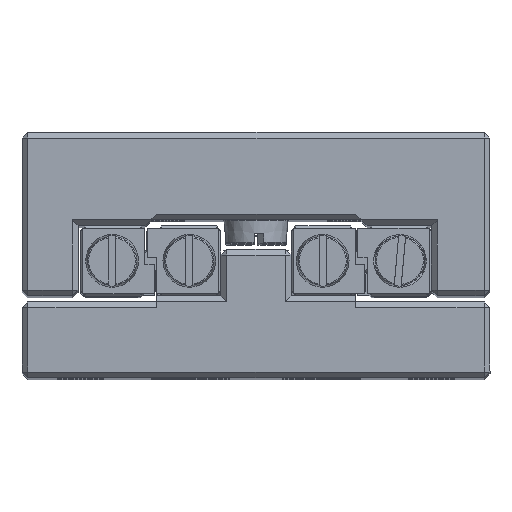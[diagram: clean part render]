
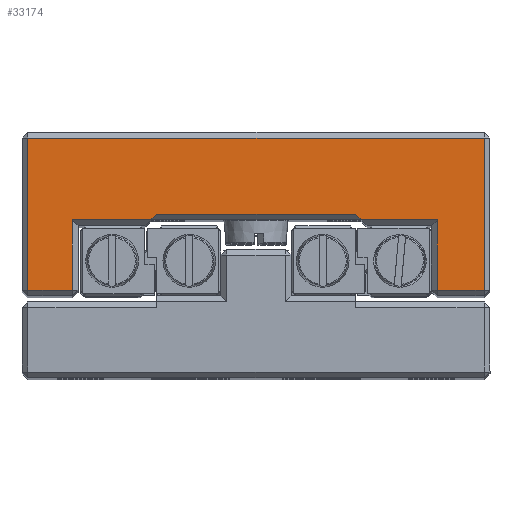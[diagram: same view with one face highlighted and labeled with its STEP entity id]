
A CAD part, top view. The second image highlights one B-rep face of the part: STEP entity #33174.
In plain terms, the highlighted planar face has unit normal (0, 0, 1).
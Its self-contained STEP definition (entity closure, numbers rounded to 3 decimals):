
#2065=PLANE('',#35907);
#3949=FACE_OUTER_BOUND('',#5962,.T.);
#5962=EDGE_LOOP('',(#28222,#28223,#28224,#28225,#28226,#28227,#28228,#28229,
#28230,#28231,#28232,#28233));
#8676=LINE('',#54648,#11580);
#8692=LINE('',#54674,#11596);
#8703=LINE('',#54691,#11607);
#8706=LINE('',#54696,#11610);
#8710=LINE('',#54705,#11614);
#8713=LINE('',#54714,#11617);
#8714=LINE('',#54720,#11618);
#8718=LINE('',#54730,#11622);
#8728=LINE('',#54754,#11632);
#8730=LINE('',#54758,#11634);
#8731=LINE('',#54759,#11635);
#8732=LINE('',#54760,#11636);
#11580=VECTOR('',#43136,10.);
#11596=VECTOR('',#43162,10.);
#11607=VECTOR('',#43181,10.);
#11610=VECTOR('',#43186,10.);
#11614=VECTOR('',#43198,10.);
#11617=VECTOR('',#43211,10.);
#11618=VECTOR('',#43220,10.);
#11622=VECTOR('',#43230,10.);
#11632=VECTOR('',#43250,10.);
#11634=VECTOR('',#43254,10.);
#11635=VECTOR('',#43255,10.);
#11636=VECTOR('',#43256,10.);
#15674=VERTEX_POINT('',#54645);
#15675=VERTEX_POINT('',#54647);
#15680=VERTEX_POINT('',#54672);
#15682=VERTEX_POINT('',#54689);
#15683=VERTEX_POINT('',#54694);
#15684=VERTEX_POINT('',#54703);
#15685=VERTEX_POINT('',#54712);
#15686=VERTEX_POINT('',#54719);
#15688=VERTEX_POINT('',#54727);
#15689=VERTEX_POINT('',#54729);
#15698=VERTEX_POINT('',#54752);
#15699=VERTEX_POINT('',#54757);
#19970=EDGE_CURVE('',#15674,#15675,#8676,.T.);
#19986=EDGE_CURVE('',#15680,#15674,#8692,.T.);
#19997=EDGE_CURVE('',#15682,#15680,#8703,.T.);
#20000=EDGE_CURVE('',#15683,#15682,#8706,.T.);
#20004=EDGE_CURVE('',#15684,#15683,#8710,.T.);
#20007=EDGE_CURVE('',#15685,#15684,#8713,.T.);
#20008=EDGE_CURVE('',#15686,#15685,#8714,.T.);
#20012=EDGE_CURVE('',#15688,#15689,#8718,.T.);
#20024=EDGE_CURVE('',#15698,#15686,#8728,.T.);
#20026=EDGE_CURVE('',#15675,#15699,#8730,.T.);
#20027=EDGE_CURVE('',#15689,#15698,#8731,.T.);
#20028=EDGE_CURVE('',#15699,#15688,#8732,.T.);
#28222=ORIENTED_EDGE('',*,*,#20026,.F.);
#28223=ORIENTED_EDGE('',*,*,#19970,.F.);
#28224=ORIENTED_EDGE('',*,*,#19986,.F.);
#28225=ORIENTED_EDGE('',*,*,#19997,.F.);
#28226=ORIENTED_EDGE('',*,*,#20000,.F.);
#28227=ORIENTED_EDGE('',*,*,#20004,.F.);
#28228=ORIENTED_EDGE('',*,*,#20007,.F.);
#28229=ORIENTED_EDGE('',*,*,#20008,.F.);
#28230=ORIENTED_EDGE('',*,*,#20024,.F.);
#28231=ORIENTED_EDGE('',*,*,#20027,.F.);
#28232=ORIENTED_EDGE('',*,*,#20012,.F.);
#28233=ORIENTED_EDGE('',*,*,#20028,.F.);
#33174=ADVANCED_FACE('',(#3949),#2065,.F.);
#35907=AXIS2_PLACEMENT_3D('',#54756,#43252,#43253);
#43136=DIRECTION('',(0.,1.,0.));
#43162=DIRECTION('',(-1.,0.,0.));
#43181=DIRECTION('',(0.,-1.,0.));
#43186=DIRECTION('',(1.,0.,0.));
#43198=DIRECTION('',(0.,1.,0.));
#43211=DIRECTION('',(-1.,0.,0.));
#43220=DIRECTION('',(0.,-1.,0.));
#43230=DIRECTION('',(-1.,0.,0.));
#43250=DIRECTION('',(-1.,0.,0.));
#43252=DIRECTION('center_axis',(0.,0.,
-1.));
#43253=DIRECTION('ref_axis',(-1.,0.,0.));
#43254=DIRECTION('',(-1.,0.,0.));
#43255=DIRECTION('',(-0.707,-0.707,0.));
#43256=DIRECTION('',(-0.707,0.707,0.));
#54645=CARTESIAN_POINT('',(-18.197,7.5,35.));
#54647=CARTESIAN_POINT('',(-18.197,13.5,35.));
#54648=CARTESIAN_POINT('',(-18.197,10.5,35.));
#54672=CARTESIAN_POINT('',(-14.197,7.5,35.));
#54674=CARTESIAN_POINT('',(-23.697,7.5,35.));
#54689=CARTESIAN_POINT('',(-14.197,20.5,35.));
#54691=CARTESIAN_POINT('',(-14.197,17.5,35.));
#54694=CARTESIAN_POINT('',(-53.197,20.5,35.));
#54696=CARTESIAN_POINT('',(-43.697,20.5,35.));
#54703=CARTESIAN_POINT('',(-53.197,7.5,35.));
#54705=CARTESIAN_POINT('',(-53.197,10.5,35.));
#54712=CARTESIAN_POINT('',(-49.397,7.5,35.));
#54714=CARTESIAN_POINT('',(-41.297,7.5,35.));
#54719=CARTESIAN_POINT('',(-49.397,13.5,35.));
#54720=CARTESIAN_POINT('',(-49.397,13.5,35.));
#54727=CARTESIAN_POINT('',(-25.197,14.,35.));
#54729=CARTESIAN_POINT('',(-42.197,14.,35.));
#54730=CARTESIAN_POINT('',(-29.197,14.,35.));
#54752=CARTESIAN_POINT('',(-42.697,13.5,35.));
#54754=CARTESIAN_POINT('',(-38.447,13.5,35.));
#54756=CARTESIAN_POINT('Origin',(-33.697,14.,35.));
#54757=CARTESIAN_POINT('',(-24.697,13.5,35.));
#54758=CARTESIAN_POINT('',(-26.197,13.5,35.));
#54759=CARTESIAN_POINT('',(-42.697,13.5,35.));
#54760=CARTESIAN_POINT('',(-24.197,13.,35.));
